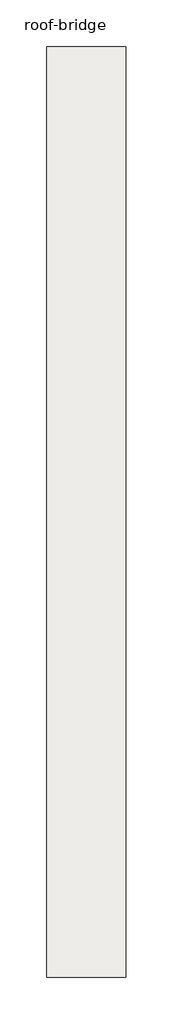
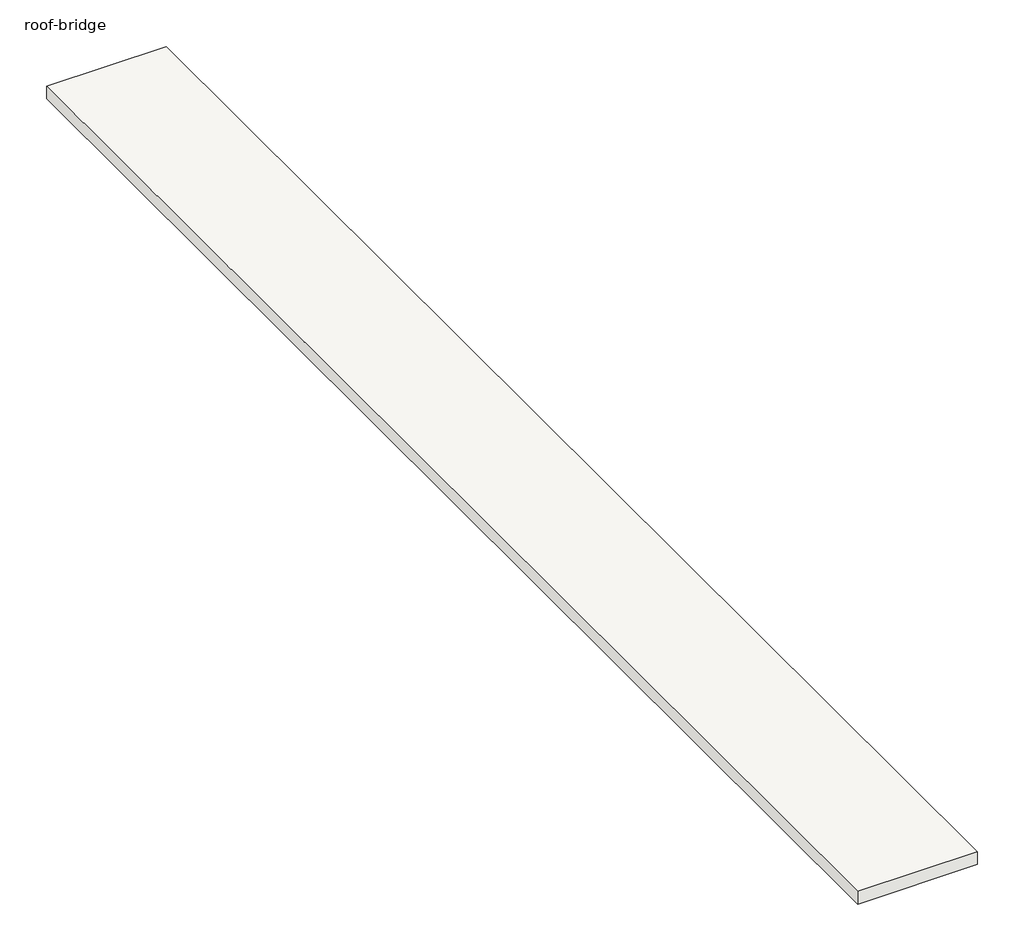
# One storey: 1 roof.
"""IFC4 building model written with IfcOpenShell, lengths in millimetres."""

from ifc_helpers import new_model, si_unit, frame, origin, place, context, project, spatial, polyline, outline, extrude, element, save

model = new_model("IFC4")

# Units and contexts
model_context = context("Model", 3, world=origin())
ifc_project = project(units=[si_unit("LENGTHUNIT", "METRE", prefix="MILLI")], contexts=[model_context])

# Site, building, storey
site = spatial("IfcSite", under=ifc_project)
building = spatial("IfcBuilding", under=site)
storey = spatial("IfcBuildingStorey", under=building, Name="roof-bridge", Elevation=22250.4)

# Roof
placement = place(None, origin())
element("IfcRoof", 1, ObjectType="Generic - 12\"", at=placement, inside=storey, context=model_context, shape_type="SweptSolid", body=[
    extrude(outline(polyline([(-104601.6574925, 39674.9321029), (-101864.8074925, 39674.9321029), (-101864.8074925, 7600.4219438), (-104601.6574925, 7600.4219438), (-104601.6574925, 39674.9321029)])), frame((0.0, 0.0, 21640.8), z_axis=(0.0, 0.0, 1.0), x_axis=(1.0, 0.0, 0.0)), (0.0, 0.0, 1.0), 304.8),
])

save(model, "model.ifc")
